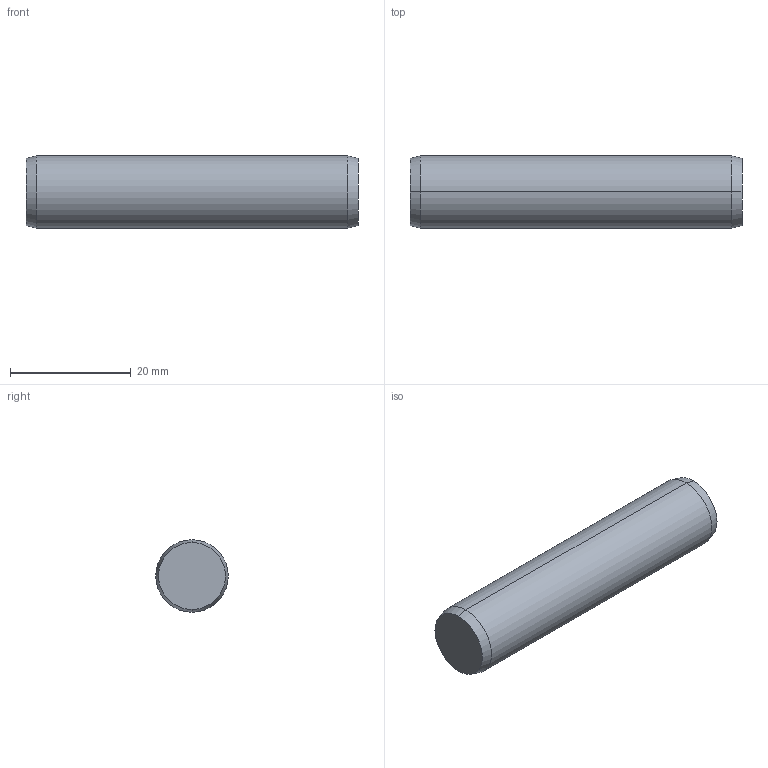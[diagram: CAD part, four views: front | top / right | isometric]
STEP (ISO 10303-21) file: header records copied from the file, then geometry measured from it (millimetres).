
FILE_DESCRIPTION (( 'STEP AP203' ), '1' );
FILE_NAME ('P1206.120-055.step', '2017-06-14T08:39:31', ( 'User' ), ( '' ), 'SwSTEP 2.0', 'SolidWorks 2009', '' );
FILE_SCHEMA (( 'CONFIG_CONTROL_DESIGN' ));
Length unit declared in the file: millimetre
Products named in the file (1): P1206.120-055
Bounding box: 55 x 12 x 12 mm (x, y, z)
Volume: 6191.9 mm3; surface area: 2266.1 mm2
Topology: 1 solids, 1 shells, 8 faces, 14 edges, 8 vertices
Faces by surface type: cone 4, cylinder 2, plane 2
Entity records: 271 total; most frequent: DIRECTION 40, CARTESIAN_POINT 31, ORIENTED_EDGE 28, AXIS2_PLACEMENT_3D 17, EDGE_CURVE 14, VERTEX_POINT 8, EDGE_LOOP 8, ADVANCED_FACE 8
